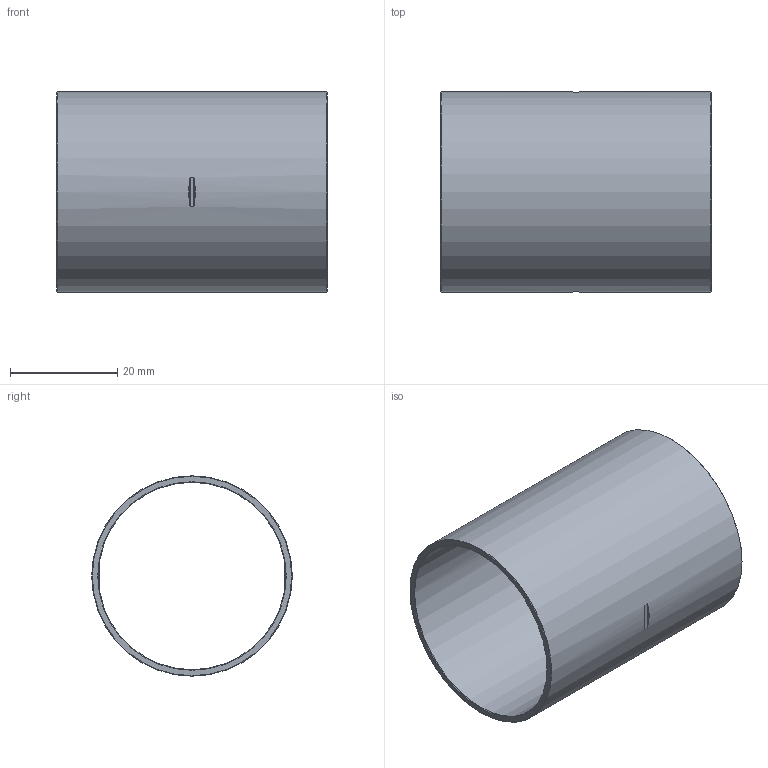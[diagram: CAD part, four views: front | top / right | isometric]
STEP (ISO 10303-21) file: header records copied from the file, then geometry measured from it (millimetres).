
FILE_DESCRIPTION((''),'2;1');
FILE_NAME('G:\SANHA-TERNAT\Technik\Management\Bouwmaten\z-maattekeningen 3D\imate 5000s\15270..._\1527035.stp','2009-10-19T09:09:03',('vdvijverd'),(''),'Autodesk Inventor 2009','Autodesk Inventor 2009','');
FILE_SCHEMA(('AUTOMOTIVE_DESIGN { 1 0 10303 214 1 1 1 1 }'));
Length unit declared in the file: millimetre
Products named in the file (1): 1527035
Bounding box: 50.5 x 37.44 x 37.44 mm (x, y, z)
Volume: 7009.1 mm3; surface area: 11745.4 mm2
Topology: 1 solids, 1 shells, 36 faces, 96 edges, 64 vertices
Faces by surface type: bspline 14, cylinder 10, plane 8, cone 4
Full cylindrical faces by diameter (mm): 35 x1, 37.44 x1
Entity records: 1402 total; most frequent: CARTESIAN_POINT 591, ORIENTED_EDGE 176, DIRECTION 126, EDGE_CURVE 88, VERTEX_POINT 64, EDGE_LOOP 48, AXIS2_PLACEMENT_3D 47, FACE_OUTER_BOUND 36
